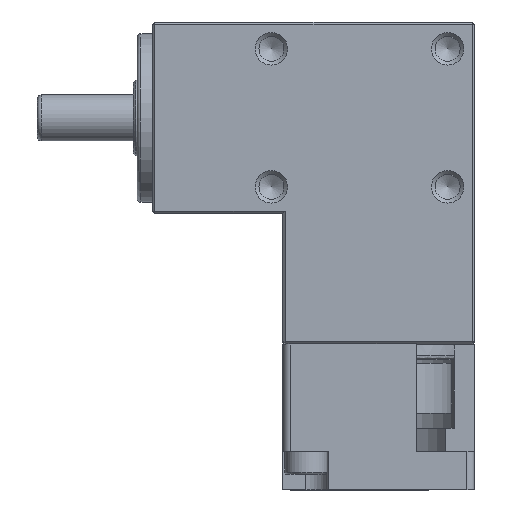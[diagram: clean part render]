
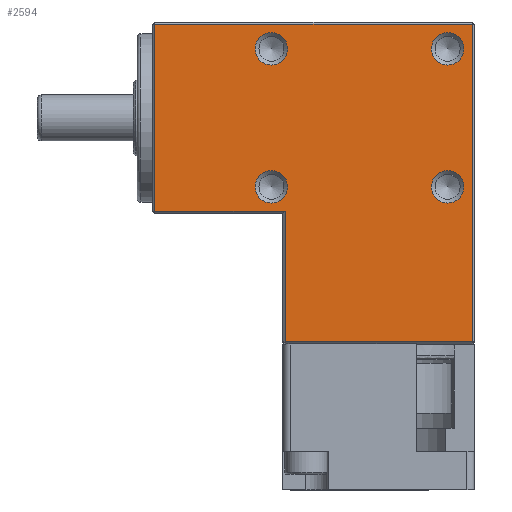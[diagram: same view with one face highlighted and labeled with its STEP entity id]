
A CAD part, top view. The second image highlights one B-rep face of the part: STEP entity #2594.
In plain terms, the highlighted planar face has unit normal (0, 0, 1).
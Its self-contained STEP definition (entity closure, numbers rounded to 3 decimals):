
#2491=CARTESIAN_POINT('',(-11.879,-9.,25.0));
#2492=VERTEX_POINT('',#2491);
#2493=CARTESIAN_POINT('',(-14.,-9.,25.0));
#2494=DIRECTION('',(0.0,0.0,1.0));
#2495=DIRECTION('',(-1.0,0.0,0.0));
#2496=AXIS2_PLACEMENT_3D('',#2493,#2494,#2495);
#2497=CIRCLE('',#2496,2.121);
#2498=EDGE_CURVE('',#2492,#2492,#2497,.T.);
#2503=CARTESIAN_POINT('',(0.,-21.,25.0));
#2504=DIRECTION('',(0.0,0.0,1.0));
#2505=DIRECTION('',(1.0,0.0,0.0));
#2506=AXIS2_PLACEMENT_3D('',#2503,#2504,#2505);
#2507=PLANE('',#2506);
#2508=CARTESIAN_POINT('',(-12.2,-29.2,25.0));
#2509=VERTEX_POINT('',#2508);
#2510=CARTESIAN_POINT('',(-12.2,-12.2,25.0));
#2511=VERTEX_POINT('',#2510);
#2512=CARTESIAN_POINT('',(-12.2,-29.2,25.0));
#2513=DIRECTION('',(0.0,1.0,0.0));
#2514=VECTOR('',#2513,17.);
#2515=LINE('',#2512,#2514);
#2516=EDGE_CURVE('',#2509,#2511,#2515,.T.);
#2517=ORIENTED_EDGE('',*,*,#2516,.F.);
#2518=CARTESIAN_POINT('',(12.2,-29.2,25.0));
#2519=VERTEX_POINT('',#2518);
#2520=CARTESIAN_POINT('',(12.2,-29.2,25.0));
#2521=DIRECTION('',(-1.0,0.0,0.0));
#2522=VECTOR('',#2521,24.4);
#2523=LINE('',#2520,#2522);
#2524=EDGE_CURVE('',#2519,#2509,#2523,.T.);
#2525=ORIENTED_EDGE('',*,*,#2524,.F.);
#2526=CARTESIAN_POINT('',(12.2,12.2,25.0));
#2527=VERTEX_POINT('',#2526);
#2528=CARTESIAN_POINT('',(12.2,12.2,25.0));
#2529=DIRECTION('',(0.0,-1.0,0.0));
#2530=VECTOR('',#2529,41.4);
#2531=LINE('',#2528,#2530);
#2532=EDGE_CURVE('',#2527,#2519,#2531,.T.);
#2533=ORIENTED_EDGE('',*,*,#2532,.F.);
#2534=CARTESIAN_POINT('',(-29.2,12.2,25.0));
#2535=VERTEX_POINT('',#2534);
#2536=CARTESIAN_POINT('',(-29.2,12.2,25.0));
#2537=DIRECTION('',(1.0,0.0,0.0));
#2538=VECTOR('',#2537,41.4);
#2539=LINE('',#2536,#2538);
#2540=EDGE_CURVE('',#2535,#2527,#2539,.T.);
#2541=ORIENTED_EDGE('',*,*,#2540,.F.);
#2542=CARTESIAN_POINT('',(-29.2,-12.2,25.0));
#2543=VERTEX_POINT('',#2542);
#2544=CARTESIAN_POINT('',(-29.2,-12.2,25.0));
#2545=DIRECTION('',(0.0,1.0,0.0));
#2546=VECTOR('',#2545,24.4);
#2547=LINE('',#2544,#2546);
#2548=EDGE_CURVE('',#2543,#2535,#2547,.T.);
#2549=ORIENTED_EDGE('',*,*,#2548,.F.);
#2550=CARTESIAN_POINT('',(-12.2,-12.2,25.0));
#2551=DIRECTION('',(-1.0,0.0,0.0));
#2552=VECTOR('',#2551,17.);
#2553=LINE('',#2550,#2552);
#2554=EDGE_CURVE('',#2511,#2543,#2553,.T.);
#2555=ORIENTED_EDGE('',*,*,#2554,.F.);
#2556=EDGE_LOOP('',(#2517,#2525,#2533,#2541,#2549,#2555));
#2557=FACE_OUTER_BOUND('',#2556,.T.);
#2558=CARTESIAN_POINT('',(11.121,-9.,25.0));
#2559=VERTEX_POINT('',#2558);
#2560=CARTESIAN_POINT('',(9.0,-9.,25.0));
#2561=DIRECTION('',(0.0,0.0,1.0));
#2562=DIRECTION('',(-1.0,0.0,0.0));
#2563=AXIS2_PLACEMENT_3D('',#2560,#2561,#2562);
#2564=CIRCLE('',#2563,2.121);
#2565=EDGE_CURVE('',#2559,#2559,#2564,.T.);
#2566=ORIENTED_EDGE('',*,*,#2565,.F.);
#2567=EDGE_LOOP('',(#2566));
#2568=FACE_BOUND('',#2567,.T.);
#2569=CARTESIAN_POINT('',(-11.879,9.,25.0));
#2570=VERTEX_POINT('',#2569);
#2571=CARTESIAN_POINT('',(-14.0,9.,25.0));
#2572=DIRECTION('',(0.0,0.0,1.0));
#2573=DIRECTION('',(-1.0,0.0,0.0));
#2574=AXIS2_PLACEMENT_3D('',#2571,#2572,#2573);
#2575=CIRCLE('',#2574,2.121);
#2576=EDGE_CURVE('',#2570,#2570,#2575,.T.);
#2577=ORIENTED_EDGE('',*,*,#2576,.F.);
#2578=EDGE_LOOP('',(#2577));
#2579=FACE_BOUND('',#2578,.T.);
#2580=CARTESIAN_POINT('',(11.121,9.,25.0));
#2581=VERTEX_POINT('',#2580);
#2582=CARTESIAN_POINT('',(9.0,9.,25.0));
#2583=DIRECTION('',(0.0,0.0,1.0));
#2584=DIRECTION('',(-1.0,0.0,0.0));
#2585=AXIS2_PLACEMENT_3D('',#2582,#2583,#2584);
#2586=CIRCLE('',#2585,2.121);
#2587=EDGE_CURVE('',#2581,#2581,#2586,.T.);
#2588=ORIENTED_EDGE('',*,*,#2587,.F.);
#2589=EDGE_LOOP('',(#2588));
#2590=FACE_BOUND('',#2589,.T.);
#2591=ORIENTED_EDGE('',*,*,#2498,.F.);
#2592=EDGE_LOOP('',(#2591));
#2593=FACE_BOUND('',#2592,.T.);
#2594=ADVANCED_FACE('',(#2557,#2568,#2579,#2590,#2593),#2507,.T.);
